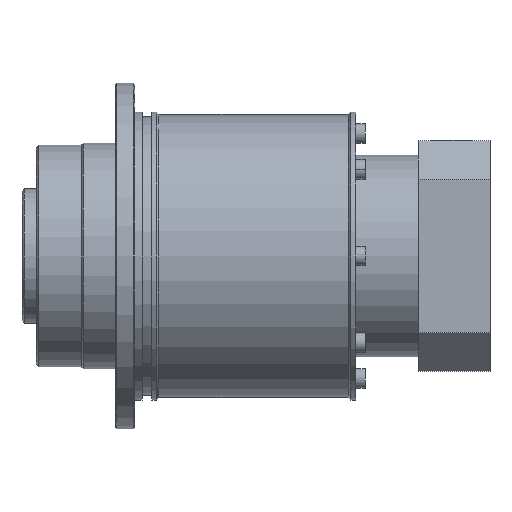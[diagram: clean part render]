
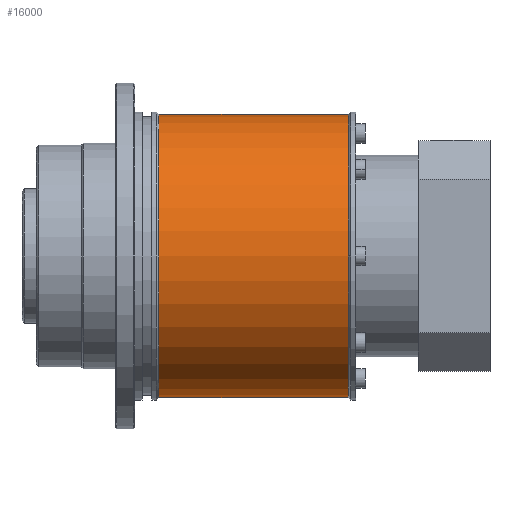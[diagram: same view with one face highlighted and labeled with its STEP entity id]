
A CAD part, left-side view. The second image highlights one B-rep face of the part: STEP entity #16000.
In plain terms, the highlighted cylindrical face has radius 29.5 mm (diameter 59 mm), a partial arc.
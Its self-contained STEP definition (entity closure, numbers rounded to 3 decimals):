
#345 = CARTESIAN_POINT ( 'NONE',  ( -53.473, 8.193, 0. ) ) ;
#777 = AXIS2_PLACEMENT_3D ( 'NONE', #18744, #11541, #11695 ) ;
#1235 = EDGE_CURVE ( 'NONE', #21194, #13731, #10296, .T. ) ;
#1546 = EDGE_CURVE ( 'NONE', #13731, #11529, #5126, .T. ) ;
#1773 = CARTESIAN_POINT ( 'NONE',  ( -53.473, 47.693, -29.5 ) ) ;
#1987 = ORIENTED_EDGE ( 'NONE', *, *, #1546, .T. ) ;
#2183 = VERTEX_POINT ( 'NONE', #4682 ) ;
#2340 = DIRECTION ( 'NONE',  ( 0., -1., 0. ) ) ;
#4165 = CARTESIAN_POINT ( 'NONE',  ( -53.473, 8.193, -29.5 ) ) ;
#4682 = CARTESIAN_POINT ( 'NONE',  ( -53.473, 8.193, 29.5 ) ) ;
#4702 = AXIS2_PLACEMENT_3D ( 'NONE', #345, #17687, #15936 ) ;
#5126 = LINE ( 'NONE', #12715, #21682 ) ;
#5169 = ORIENTED_EDGE ( 'NONE', *, *, #19887, .T. ) ;
#5851 = ORIENTED_EDGE ( 'NONE', *, *, #1235, .T. ) ;
#8933 = DIRECTION ( 'NONE',  ( 0., 0., -1. ) ) ;
#8961 = EDGE_CURVE ( 'NONE', #21194, #2183, #13416, .T. ) ;
#9050 = CIRCLE ( 'NONE', #4702, 29.5 ) ;
#9657 = CARTESIAN_POINT ( 'NONE',  ( -82.973, 8.193, 0. ) ) ;
#9925 = VECTOR ( 'NONE', #22044, 1000. ) ;
#10254 = ORIENTED_EDGE ( 'NONE', *, *, #8961, .F. ) ;
#10296 = CIRCLE ( 'NONE', #11646, 29.5 ) ;
#10805 = CARTESIAN_POINT ( 'NONE',  ( -53.473, -6.307, 0. ) ) ;
#10917 = CIRCLE ( 'NONE', #777, 29.5 ) ;
#11058 = DIRECTION ( 'NONE',  ( 0., -1., 0. ) ) ;
#11529 = VERTEX_POINT ( 'NONE', #4165 ) ;
#11541 = DIRECTION ( 'NONE',  ( 0., 1., 0. ) ) ;
#11646 = AXIS2_PLACEMENT_3D ( 'NONE', #14822, #2340, #16576 ) ;
#11695 = DIRECTION ( 'NONE',  ( 0., 0., -1. ) ) ;
#12715 = CARTESIAN_POINT ( 'NONE',  ( -53.473, -6.307, -29.5 ) ) ;
#13416 = LINE ( 'NONE', #18514, #9925 ) ;
#13731 = VERTEX_POINT ( 'NONE', #1773 ) ;
#14039 = EDGE_CURVE ( 'NONE', #18194, #2183, #10917, .T. ) ;
#14256 = ORIENTED_EDGE ( 'NONE', *, *, #14039, .T. ) ;
#14822 = CARTESIAN_POINT ( 'NONE',  ( -53.473, 47.693, 0. ) ) ;
#15745 = AXIS2_PLACEMENT_3D ( 'NONE', #10805, #17572, #8933 ) ;
#15936 = DIRECTION ( 'NONE',  ( 0., 0., -1. ) ) ;
#16000 = ADVANCED_FACE ( 'NONE', ( #18687 ), #19767, .T. ) ;
#16576 = DIRECTION ( 'NONE',  ( 0., 0., -1. ) ) ;
#17061 = EDGE_LOOP ( 'NONE', ( #10254, #5851, #1987, #5169, #14256 ) ) ;
#17572 = DIRECTION ( 'NONE',  ( 0., -1., 0. ) ) ;
#17687 = DIRECTION ( 'NONE',  ( 0., 1., 0. ) ) ;
#18194 = VERTEX_POINT ( 'NONE', #9657 ) ;
#18514 = CARTESIAN_POINT ( 'NONE',  ( -53.473, -6.307, 29.5 ) ) ;
#18687 = FACE_OUTER_BOUND ( 'NONE', #17061, .T. ) ;
#18744 = CARTESIAN_POINT ( 'NONE',  ( -53.473, 8.193, 0. ) ) ;
#19767 = CYLINDRICAL_SURFACE ( 'NONE', #15745, 29.5 ) ;
#19887 = EDGE_CURVE ( 'NONE', #11529, #18194, #9050, .T. ) ;
#21194 = VERTEX_POINT ( 'NONE', #21611 ) ;
#21611 = CARTESIAN_POINT ( 'NONE',  ( -53.473, 47.693, 29.5 ) ) ;
#21682 = VECTOR ( 'NONE', #11058, 1000. ) ;
#22044 = DIRECTION ( 'NONE',  ( 0., -1., 0. ) ) ;
